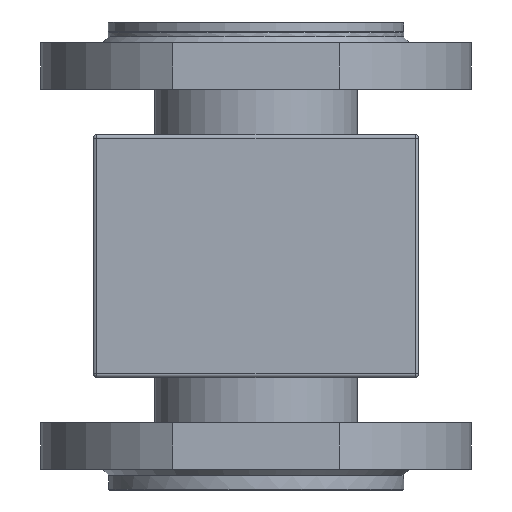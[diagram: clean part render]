
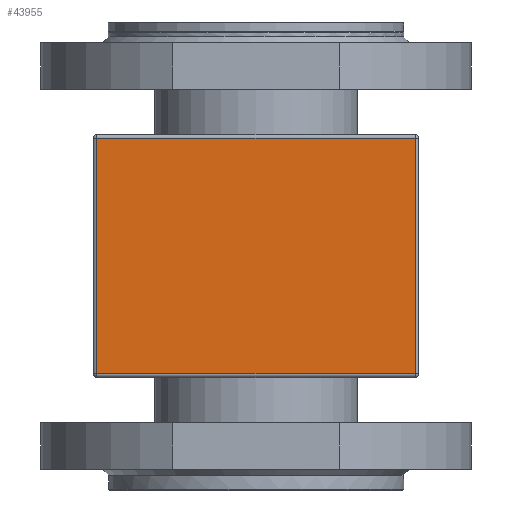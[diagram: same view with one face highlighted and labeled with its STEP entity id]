
A CAD part, front view. The second image highlights one B-rep face of the part: STEP entity #43955.
In plain terms, the highlighted planar face has unit normal (0, -1, 0).
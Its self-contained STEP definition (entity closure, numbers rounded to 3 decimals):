
#5249=FACE_OUTER_BOUND('',#7829,.T.);
#7829=EDGE_LOOP('',(#37333,#37334,#37335,#37336));
#12026=LINE('',#77640,#16055);
#12038=LINE('',#77678,#16067);
#12043=LINE('',#77685,#16072);
#12045=LINE('',#77688,#16074);
#16055=VECTOR('',#55759,10.);
#16067=VECTOR('',#55811,10.);
#16072=VECTOR('',#55820,10.);
#16074=VECTOR('',#55824,10.);
#19859=VERTEX_POINT('',#77609);
#19862=VERTEX_POINT('',#77616);
#19863=VERTEX_POINT('',#77620);
#19868=VERTEX_POINT('',#77633);
#25710=EDGE_CURVE('',#19868,#19862,#12026,.T.);
#25731=EDGE_CURVE('',#19863,#19868,#12038,.T.);
#25736=EDGE_CURVE('',#19859,#19863,#12043,.T.);
#25738=EDGE_CURVE('',#19862,#19859,#12045,.T.);
#37333=ORIENTED_EDGE('',*,*,#25710,.F.);
#37334=ORIENTED_EDGE('',*,*,#25731,.F.);
#37335=ORIENTED_EDGE('',*,*,#25736,.F.);
#37336=ORIENTED_EDGE('',*,*,#25738,.F.);
#39534=PLANE('',#46635);
#43955=ADVANCED_FACE('',(#5249),#39534,.T.);
#46635=AXIS2_PLACEMENT_3D('',#77689,#55825,#55826);
#55759=DIRECTION('',(0.,0.,-1.));
#55811=DIRECTION('',(1.,0.,0.));
#55820=DIRECTION('',(0.,0.,1.));
#55824=DIRECTION('',(-1.,0.,0.));
#55825=DIRECTION('center_axis',(0.,-1.,0.));
#55826=DIRECTION('ref_axis',(0.,0.,
1.));
#77609=CARTESIAN_POINT('',(-85.,-81.,54.));
#77616=CARTESIAN_POINT('',(85.,-81.,54.));
#77620=CARTESIAN_POINT('',(-85.,-81.,180.));
#77633=CARTESIAN_POINT('',(85.,-81.,180.));
#77640=CARTESIAN_POINT('',(85.,-81.,84.5));
#77678=CARTESIAN_POINT('',(87.,-81.,180.));
#77685=CARTESIAN_POINT('',(-85.,-81.,84.5));
#77688=CARTESIAN_POINT('',(87.,-81.,54.));
#77689=CARTESIAN_POINT('Origin',(87.,-81.,52.));
